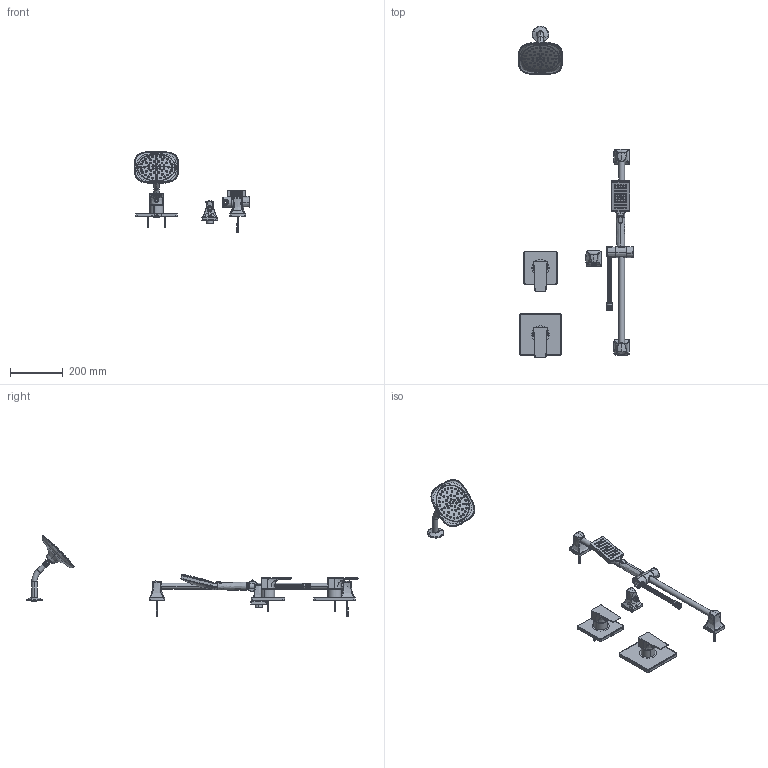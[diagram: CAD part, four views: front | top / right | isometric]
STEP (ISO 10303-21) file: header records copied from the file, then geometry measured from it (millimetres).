
FILE_DESCRIPTION (( 'STEP AP214' ), '1' );
FILE_NAME ('4995TRM.STEP', '2025-01-02T04:56:32', ( '' ), ( '' ), 'SwSTEP 2.0', 'SolidWorks 2023', '' );
FILE_SCHEMA (( 'AUTOMOTIVE_DESIGN' ));
Products named in the file (1): 4995TRM
Bounding box: 440.44 x 1263.89 x 309.12 mm (x, y, z)
Surface area: 524435.1 mm2 (no closed solid volume)
Topology: 0 solids, 360 shells, 1928 faces, 6993 edges, 5296 vertices
Faces by surface type: cylinder 500, bspline 486, plane 465, cone 368, torus 104, sphere 5
Entity records: 250274 total; most frequent: CARTESIAN_POINT 198185, ORIENTED_EDGE 9949, DIRECTION 9047, EDGE_CURVE 6982, VERTEX_POINT 5295, AXIS2_PLACEMENT_3D 3459, B_SPLINE_CURVE_WITH_KNOTS 2601, EDGE_LOOP 2267
